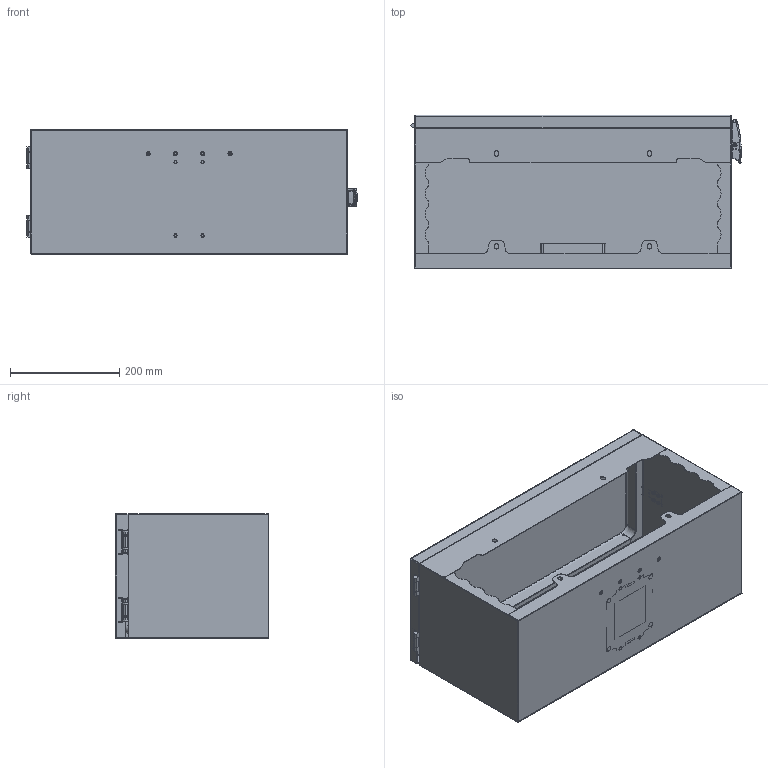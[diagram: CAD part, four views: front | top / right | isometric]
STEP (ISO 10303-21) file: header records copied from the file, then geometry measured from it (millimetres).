
FILE_DESCRIPTION (( 'STEP AP214' ), '1' );
FILE_NAME ('Generic_Conduit_Box.STEP', '2025-07-23T20:51:33', ( '' ), ( '' ), 'SwSTEP 2.0', 'SolidWorks 2020', '' );
FILE_SCHEMA (( 'AUTOMOTIVE_DESIGN' ));
Length unit declared in the file: millimetre
Products named in the file (30): 6_11; 010_asm_24_asm; nfh-m5x12; Generic_Conduit_Box; s-m5-1; ?????; heye-zhijia; lynk; 3_35; conduit-box-epdm; ???-??; 1262-110-10_asm; heye-zh_asm; heye-01; 510-0009revd-box; 510-0009revd-lid; 4_27; sw3dps-v7-20-101-50_keeper_any_; dks-1; 2_10; s-m4-1; 8_4; sw3dps-v7-20-101-50_base_any_30; 1-2_40; s-m3-1; ________4x10; 00-???-??; 12_44; heye-02
Assembly tree (50 placements, depth 5):
  Generic_Conduit_Box
    00-???-??
      ???-??
      s-m4-1  x4
      s-m3-1  x4
      nfh-m5x12  x4
      s-m5-1  x4
    heye-zh_asm  x2
      heye-01
      heye-02
      ________4x10
    ???-??
      ?????
      heye-zhijia  x2
      s-m4-1  x4
      s-m3-1  x2
      conduit-box-epdm
    dks-1
      1262-110-10_asm
        010_asm_24_asm
          2_10
          sw3dps-v7-20-101-50_base_any_30
          sw3dps-v7-20-101-50_keeper_any_
          4_27
          1-2_40
          3_35
          6_11
          8_4
          12_44
    lynk
      510-0009revd-lid
      510-0009revd-box
Bounding box: 604.25 x 281.2 x 228.7 mm (x, y, z)
Volume: 997559.2 mm3; surface area: 1563124.9 mm2
Topology: 23 solids, 68 shells, 5323 faces, 13964 edges, 8851 vertices
Faces by surface type: plane 2185, cylinder 2063, cone 465, torus 289, bspline 240, sphere 81
Entity records: 116461 total; most frequent: CARTESIAN_POINT 40580, ORIENTED_EDGE 16106, DIRECTION 15037, EDGE_CURVE 8061, AXIS2_PLACEMENT_3D 5558, VERTEX_POINT 4994, VECTOR 3921, LINE 3921
